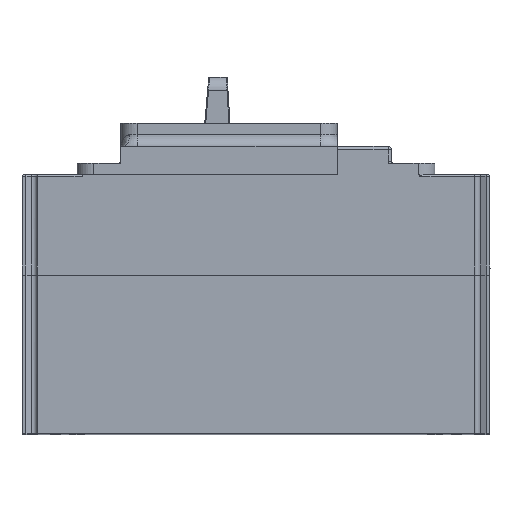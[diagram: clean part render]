
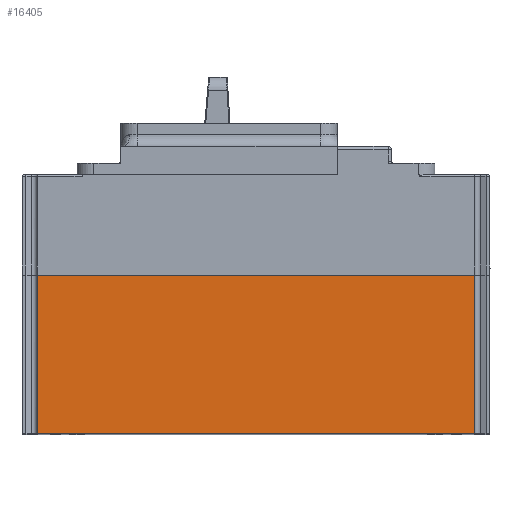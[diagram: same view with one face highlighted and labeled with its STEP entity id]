
A CAD part, top view. The second image highlights one B-rep face of the part: STEP entity #16405.
In plain terms, the highlighted planar face has unit normal (0, 0, 1).
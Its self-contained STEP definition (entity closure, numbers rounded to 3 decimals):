
#1030=DIRECTION('',(1.,0.,0.));
#1031=VECTOR('',#1030,130.9);
#1032=CARTESIAN_POINT('',(-60.192,-21.653,112.5));
#1033=LINE('',#1032,#1031);
#3332=DIRECTION('',(0.,1.,0.));
#3333=VECTOR('',#3332,47.5);
#3334=CARTESIAN_POINT('',(70.708,-21.653,112.5));
#3335=LINE('',#3334,#3333);
#3378=DIRECTION('',(-1.,0.,0.));
#3379=VECTOR('',#3378,116.6);
#3380=CARTESIAN_POINT('',(70.708,25.847,112.5));
#3381=LINE('',#3380,#3379);
#3382=DIRECTION('',(-1.,0.,0.));
#3383=VECTOR('',#3382,2.7);
#3384=CARTESIAN_POINT('',(-45.892,25.847,112.5));
#3385=LINE('',#3384,#3383);
#3386=DIRECTION('',(-1.,0.,0.));
#3387=VECTOR('',#3386,11.6);
#3388=CARTESIAN_POINT('',(-48.592,25.847,112.5));
#3389=LINE('',#3388,#3387);
#5367=DIRECTION('',(0.,-1.,0.));
#5368=VECTOR('',#5367,47.5);
#5369=CARTESIAN_POINT('',(-60.192,25.847,112.5));
#5370=LINE('',#5369,#5368);
#7328=CARTESIAN_POINT('',(-60.192,-21.653,112.5));
#7330=VERTEX_POINT('',#7328);
#7332=CARTESIAN_POINT('',(70.708,-21.653,112.5));
#7334=VERTEX_POINT('',#7332);
#8148=CARTESIAN_POINT('',(70.708,25.847,112.5));
#8149=VERTEX_POINT('',#8148);
#8150=CARTESIAN_POINT('',(-45.892,25.847,112.5));
#8151=VERTEX_POINT('',#8150);
#8152=CARTESIAN_POINT('',(-48.592,25.847,112.5));
#8153=VERTEX_POINT('',#8152);
#8154=CARTESIAN_POINT('',(-60.192,25.847,112.5));
#8155=VERTEX_POINT('',#8154);
#16391=CARTESIAN_POINT('',(-70.742,38.847,112.5));
#16392=DIRECTION('',(0.,0.,-1.));
#16393=DIRECTION('',(-1.,0.,0.));
#16394=AXIS2_PLACEMENT_3D('',#16391,#16392,#16393);
#16395=PLANE('',#16394);
#16397=ORIENTED_EDGE('',*,*,#16396,.F.);
#16398=ORIENTED_EDGE('',*,*,#13678,.F.);
#16399=ORIENTED_EDGE('',*,*,#13676,.F.);
#16400=ORIENTED_EDGE('',*,*,#13674,.F.);
#16401=ORIENTED_EDGE('',*,*,#13635,.F.);
#16402=ORIENTED_EDGE('',*,*,#10830,.F.);
#16403=EDGE_LOOP('',(#16397,#16398,#16399,#16400,#16401,#16402));
#16404=FACE_OUTER_BOUND('',#16403,.F.);
#16405=ADVANCED_FACE('',(#16404),#16395,.F.);
#10830=EDGE_CURVE('',#7330,#7334,#1033,.T.);
#13635=EDGE_CURVE('',#7334,#8149,#3335,.T.);
#13674=EDGE_CURVE('',#8149,#8151,#3381,.T.);
#13676=EDGE_CURVE('',#8151,#8153,#3385,.T.);
#13678=EDGE_CURVE('',#8153,#8155,#3389,.T.);
#16396=EDGE_CURVE('',#8155,#7330,#5370,.T.);
